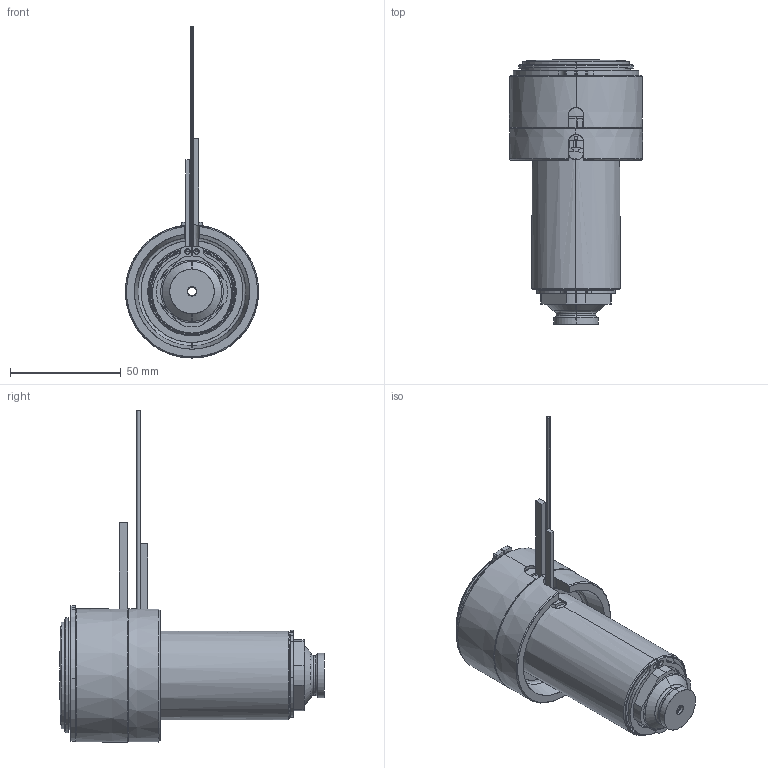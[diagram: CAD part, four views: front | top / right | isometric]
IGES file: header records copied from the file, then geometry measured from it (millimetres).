
Start section: SolidWorks IGES file using analytic representation for surfaces
Global section: file name: C:\Documents and Settings\ws-20\Desktop\TEM\UGER6603-M-A-0 [Øb-3.9 P-0 ØC-17].IGS; native system: SolidWorks 2012; preprocessor: SolidWorks 2012; author: ws-20; date: 120417.135124; units: millimetre
Bounding box: 60 x 119.25 x 149.65 mm (x, y, z)
Surface area: 68100 mm2 (no closed solid volume)
Topology: 0 solids, 0 shells, 171 faces, 3292 edges, 3292 vertices
Faces by surface type: revolution 102, bspline 69
